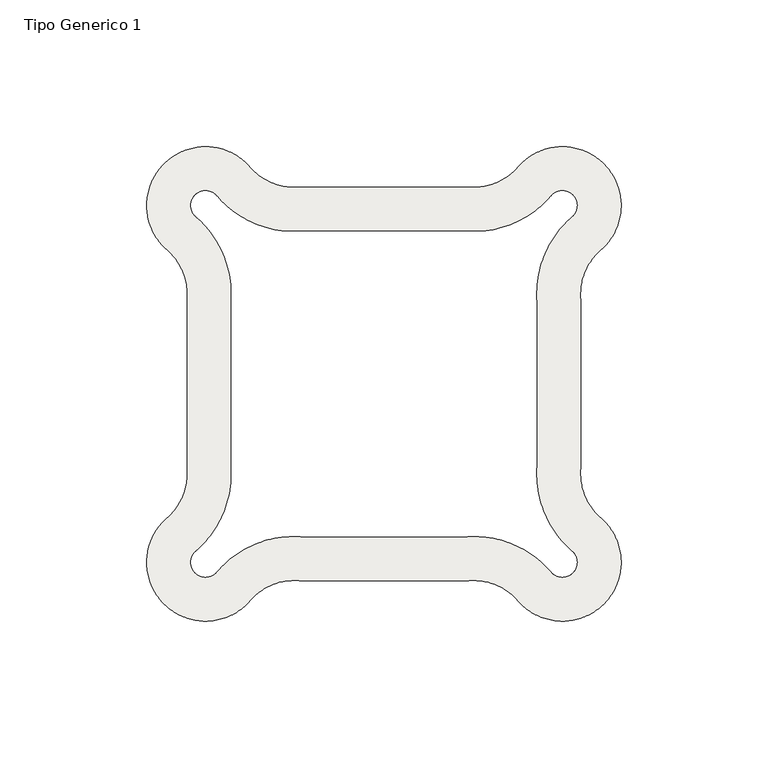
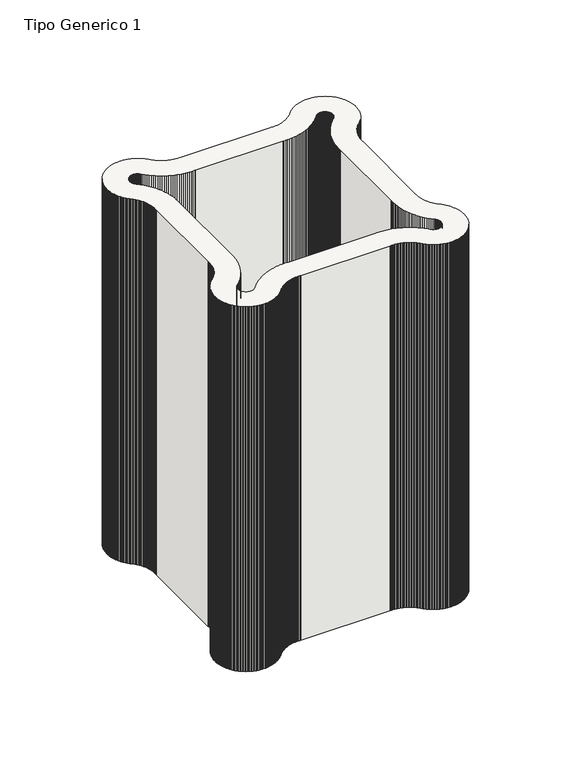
"""IFC4 building model written with IfcOpenShell, lengths in millimetres: slab geometry, Tipo Generico 1."""

from ifc_helpers import new_model, si_unit, frame, origin, place, context, project, spatial, polyline, outline, extrude, source, transform, mapped, element, save


def tipo_generico_1_efbd42e6(model_context):
    return source(origin(), model_context, "Body", "SweptSolid", [
        extrude(outline(polyline([(259295.3861912, 277995.4201759), (259295.3861912, 277937.7201759), (259295.3406193, 277937.024679), (259295.319309, 277936.3280165), (259295.3222863, 277935.6310345), (259295.3495475, 277934.9345795), (259295.4010595, 277934.2394973), (259295.4767597, 277933.5466321), (259295.5765563, 277932.8568253), (259295.700328, 277932.1709147), (259295.8479244, 277931.4897333), (259296.0191664, 277930.8141085), (259296.213846, 277930.1448607), (259296.4317268, 277929.4828027), (259296.672544, 277928.8287386), (259296.9360053, 277928.1834628), (259297.2217907, 277927.5477589), (259297.5295531, 277926.9223989), (259297.8589188, 277926.3081424), (259298.2094876, 277925.7057354), (259298.580834, 277925.1159094), (259298.9725068, 277924.5393809), (259299.3840304, 277923.9768499), (259299.814905, 277923.4289997), (259300.2646073, 277922.8964957), (259300.7325912, 277922.3799844), (259301.2182883, 277921.8800933), (259301.7211087, 277921.3974295), (259302.2404416, 277920.9325792), (259302.7560976, 277920.4711366), (259303.2554818, 277919.9921319), (259303.7379966, 277919.4961385), (259304.2030644, 277918.9837499), (259304.6501284, 277918.4555797), (259305.0786536, 277917.9122601), (259305.4881269, 277917.3544414), (259305.8780582, 277916.7827915), (259306.2479807, 277916.1979946), (259306.5974515, 277915.6007507), (259306.9260523, 277914.9917749), (259307.2333898, 277914.3717961), (259307.5190961, 277913.7415565), (259307.782829, 277913.1018105), (259308.024273, 277912.4533239), (259308.2431391, 277911.796873), (259308.4391651, 277911.1332437), (259308.6121164, 277910.4632304), (259308.7617861, 277909.7876351), (259308.8879949, 277909.1072665), (259308.9905918, 277908.4229392), (259309.069454, 277907.7354722), (259309.1244869, 277907.0456886), (259309.1556249, 277906.354414), (259309.1628305, 277905.6624761), (259309.1460952, 277904.970703), (259309.105439, 277904.2799229), (259309.0409106, 277903.5909628), (259308.9525872, 277902.9046472), (259308.8405745, 277902.2217979), (259308.7050066, 277901.5432322), (259308.5460459, 277900.8697624), (259308.3638826, 277900.2021948), (259308.1587347, 277899.5413283), (259307.9308479, 277898.8879543), (259307.6804949, 277898.2428547), (259307.4079755, 277897.6068019), (259307.1136158, 277896.9805572), (259306.7977682, 277896.3648703), (259306.4608109, 277895.7604782), (259306.1031471, 277895.1681044), (259305.7252051, 277894.5884581), (259305.3274372, 277894.0222331), (259304.9103197, 277893.4701072), (259304.4743518, 277892.9327413), (259304.0200554, 277892.4107788), (259303.5479744, 277891.9048445), (259303.0586739, 277891.4155439), (259302.5527395, 277890.9434629), (259302.030777, 277890.4891665), (259301.4934112, 277890.0531986), (259300.9412853, 277889.6360811), (259300.3750602, 277889.2383132), (259299.7954139, 277888.8603712), (259299.2030401, 277888.5027075), (259298.598648, 277888.1657501), (259297.9829611, 277887.8499026), (259297.3567164, 277887.5555429), (259296.7206636, 277887.2830234), (259296.075564, 277887.0326704), (259295.42219, 277886.8047836), (259294.7613236, 277886.5996357), (259294.0937559, 277886.4174724), (259293.4202861, 277886.2585117), (259292.7417204, 277886.1229438), (259292.0588711, 277886.0109312), (259291.3725556, 277885.9226077), (259290.6835954, 277885.8580793), (259289.9928153, 277885.8174231), (259289.3010422, 277885.8006878), (259288.6091043, 277885.8078934), (259287.9178297, 277885.8390314), (259287.2280461, 277885.8940644), (259286.5405792, 277885.9729265), (259285.8562518, 277886.0755234), (259285.1758833, 277886.2017322), (259284.5002879, 277886.3514019), (259283.8302746, 277886.5243532), (259283.1666453, 277886.7203793), (259282.5101944, 277886.9392453), (259281.8617079, 277887.1806893), (259281.2219618, 277887.4444223), (259280.5917222, 277887.7301285), (259279.9717434, 277888.037466), (259279.3627676, 277888.3660668), (259278.7655237, 277888.7155377), (259278.1807268, 277889.0854601), (259277.6090769, 277889.4753914), (259277.0512582, 277889.8848647), (259276.5079386, 277890.3133899), (259275.9797684, 277890.760454), (259275.4673799, 277891.2255217), (259274.9713864, 277891.7080365), (259274.4923817, 277892.2074207), (259274.0309392, 277892.7230764), (259273.5660888, 277893.2424096), (259273.083425, 277893.74523), (259272.5835339, 277894.2309271), (259272.0670227, 277894.698911), (259271.5345186, 277895.1486133), (259270.9866684, 277895.5794879), (259270.4241374, 277895.9910115), (259269.8476089, 277896.3826844), (259269.2577829, 277896.7540307), (259268.6553759, 277897.1045996), (259268.0411194, 277897.4339652), (259267.4157595, 277897.7417276), (259266.7800555, 277898.027513), (259266.1347797, 277898.2909743), (259265.4807156, 277898.5317916), (259264.8186577, 277898.7496723), (259264.1494099, 277898.9443519), (259263.473785, 277899.1155939), (259262.7926036, 277899.2631904), (259262.1066931, 277899.386962), (259261.4168863, 277899.4867586), (259260.724021, 277899.5624588), (259260.0289388, 277899.6139708), (259259.3324838, 277899.641232), (259258.6355018, 277899.6442093), (259257.9388393, 277899.622899), (259257.2433424, 277899.5773271), (259199.5433424, 277899.5773271), (259198.8478455, 277899.622899), (259198.151183, 277899.6442093), (259197.454201, 277899.641232), (259196.757746, 277899.6139708), (259196.0626638, 277899.5624588), (259195.3697985, 277899.4867586), (259194.6799917, 277899.386962), (259193.9940811, 277899.2631904), (259193.3128998, 277899.1155939), (259192.6372749, 277898.9443519), (259191.9680271, 277898.7496723), (259191.3059692, 277898.5317916), (259190.6519051, 277898.2909743), (259190.0066293, 277898.027513), (259189.3709253, 277897.7417276), (259188.7455654, 277897.4339652), (259188.1313089, 277897.1045996), (259187.5289019, 277896.7540307), (259186.9390759, 277896.3826844), (259186.3625473, 277895.9910115), (259185.8000164, 277895.5794879), (259185.2521662, 277895.1486133), (259184.7196621, 277894.698911), (259184.2031509, 277894.2309271), (259183.7032598, 277893.74523), (259183.220596, 277893.2424096), (259182.7557455, 277892.7230766), (259182.2943031, 277892.2074207), (259181.8152984, 277891.7080365), (259181.3193049, 277891.2255217), (259180.8069164, 277890.760454), (259180.2787462, 277890.3133899), (259179.7354265, 277889.8848647), (259179.1776079, 277889.4753914), (259178.605958, 277889.0854601), (259178.021161, 277888.7155377), (259177.4239172, 277888.3660668), (259176.8149414, 277888.037466), (259176.1949626, 277887.7301285), (259175.564723, 277887.4444223), (259174.9249769, 277887.1806893), (259174.2764904, 277886.9392453), (259173.6200395, 277886.7203793), (259172.9564102, 277886.5243532), (259172.2863969, 277886.3514019), (259171.6108015, 277886.2017322), (259170.930433, 277886.0755234), (259170.2461056, 277885.9729265), (259169.5586387, 277885.8940644), (259168.868855, 277885.8390314), (259168.1775805, 277885.8078934), (259167.4856426, 277885.8006878), (259166.7938695, 277885.8174231), (259166.1030894, 277885.8580793), (259165.4141292, 277885.9226077), (259164.7278137, 277886.0109312), (259164.0449643, 277886.1229438), (259163.3663986, 277886.2585117), (259162.6929289, 277886.4174724), (259162.0253612, 277886.5996357), (259161.3644948, 277886.8047836), (259160.7111208, 277887.0326704), (259160.0660212, 277887.2830234), (259159.4299684, 277887.5555429), (259158.8037237, 277887.8499026), (259158.1880368, 277888.1657501), (259157.5836447, 277888.5027075), (259156.9912709, 277888.8603712), (259156.4116245, 277889.2383132), (259155.8453995, 277889.6360811), (259155.2932736, 277890.0531986), (259154.7559078, 277890.4891665), (259154.2339453, 277890.9434629), (259153.7280109, 277891.4155439), (259153.2387104, 277891.9048445), (259152.7666294, 277892.4107788), (259152.312333, 277892.9327413), (259151.8763651, 277893.4701072), (259151.4592476, 277894.0222331), (259151.0614797, 277894.5884581), (259150.6835377, 277895.1681044), (259150.3258739, 277895.7604782), (259149.9889166, 277896.3648703), (259149.673069, 277896.9805572), (259149.3787093, 277897.6068019), (259149.1061899, 277898.2428547), (259148.8558369, 277898.8879543), (259148.6279501, 277899.5413283), (259148.4228022, 277900.2021948), (259148.2406389, 277900.8697624), (259148.0816781, 277901.5432322), (259147.9461103, 277902.2217979), (259147.8340976, 277902.9046472), (259147.7457742, 277903.5909628), (259147.6812458, 277904.2799229), (259147.6405896, 277904.970703), (259147.6238543, 277905.6624761), (259147.6310599, 277906.354414), (259147.6621978, 277907.0456886), (259147.7172308, 277907.7354722), (259147.796093, 277908.4229391), (259147.8986898, 277909.1072665), (259148.0248987, 277909.7876351), (259148.1745683, 277910.4632304), (259148.3475197, 277911.1332437), (259148.5435457, 277911.796873), (259148.7624117, 277912.4533239), (259149.0038558, 277913.1018105), (259149.2675887, 277913.7415565), (259149.553295, 277914.3717961), (259149.8606325, 277914.9917749), (259150.1892333, 277915.6007507), (259150.5387041, 277916.1979946), (259150.9086266, 277916.7827915), (259151.2985578, 277917.3544414), (259151.7080312, 277917.9122601), (259152.1365563, 277918.4555797), (259152.5836204, 277918.9837499), (259153.0486882, 277919.4961385), (259153.531203, 277919.9921319), (259154.0305872, 277920.4711366), (259154.5462431, 277920.9325792), (259155.0655761, 277921.3974295), (259155.5683965, 277921.8800933), (259156.0540936, 277922.3799844), (259156.5220775, 277922.8964957), (259156.9717798, 277923.4289997), (259157.4026544, 277923.9768499), (259157.814178, 277924.5393809), (259158.2058508, 277925.1159094), (259158.5771972, 277925.7057354), (259158.927766, 277926.3081424), (259159.2571317, 277926.9223989), (259159.5648941, 277927.5477589), (259159.8506795, 277928.1834628), (259160.1141408, 277928.8287386), (259160.354958, 277929.4828027), (259160.5728388, 277930.1448607), (259160.7675183, 277930.8141085), (259160.9387604, 277931.4897333), (259161.0863568, 277932.1709147), (259161.2101285, 277932.8568253), (259161.3099251, 277933.5466321), (259161.3856253, 277934.2394973), (259161.4371373, 277934.9345795), (259161.4643985, 277935.6310345), (259161.4673757, 277936.3280165), (259161.4460655, 277937.024679), (259161.4004935, 277937.7201759), (259161.4004935, 277995.4201759), (259161.4460655, 277996.1156728), (259161.4673757, 277996.8123353), (259161.4643985, 277997.5093173), (259161.4371373, 277998.2057724), (259161.3856253, 277998.9008546), (259161.3099251, 277999.5937198), (259161.2101285, 278000.2835266), (259161.0863568, 278000.9694372), (259160.9387604, 278001.6506185), (259160.7675183, 278002.3262434), (259160.5728388, 278002.9954912), (259160.354958, 278003.6575492), (259160.1141408, 278004.3116132), (259159.8506795, 278004.9568891), (259159.5648941, 278005.592593), (259159.2571317, 278006.2179529), (259158.927766, 278006.8322094), (259158.5771972, 278007.4346165), (259158.2058508, 278008.0244424), (259157.814178, 278008.600971), (259157.4026544, 278009.1635019), (259156.9717798, 278009.7113521), (259156.5220775, 278010.2438562), (259156.0540936, 278010.7603674), (259155.5683965, 278011.2602585), (259155.0655761, 278011.7429224), (259154.546243, 278012.2077727), (259154.0305872, 278012.6692153), (259153.531203, 278013.1482199), (259153.0486882, 278013.6442134), (259152.5836204, 278014.1566019), (259152.1365563, 278014.6847721), (259151.7080312, 278015.2280918), (259151.2985578, 278015.7859104), (259150.9086266, 278016.3575604), (259150.5387041, 278016.9423573), (259150.1892333, 278017.5396011), (259149.8606325, 278018.1485769), (259149.553295, 278018.7685557), (259149.2675887, 278019.3987954), (259149.0038558, 278020.0385414), (259148.7624117, 278020.687028), (259148.5435457, 278021.3434788), (259148.3475197, 278022.0071081), (259148.1745683, 278022.6771215), (259148.0248987, 278023.3527168), (259147.8986898, 278024.0330854), (259147.796093, 278024.7174127), (259147.7172308, 278025.4048797), (259147.6621978, 278026.0946633), (259147.6310599, 278026.7859378), (259147.6238543, 278027.4778758), (259147.6405896, 278028.1696488), (259147.6812458, 278028.8604289), (259147.7457742, 278029.5493891), (259147.8340976, 278030.2357046), (259147.9461103, 278030.918554), (259148.0816781, 278031.5971197), (259148.2406389, 278032.2705895), (259148.4228022, 278032.9381571), (259148.6279501, 278033.5990235), (259148.8558369, 278034.2523976), (259149.1061899, 278034.8974971), (259149.3787093, 278035.5335499), (259149.673069, 278036.1597946), (259149.9889166, 278036.7754816), (259150.3258739, 278037.3798737), (259150.6835377, 278037.9722474), (259151.0614797, 278038.5518938), (259151.4592476, 278039.1181188), (259151.8763651, 278039.6702447), (259152.312333, 278040.2076105), (259152.7666294, 278040.7295731), (259153.2387104, 278041.2355074), (259153.7280109, 278041.7248079), (259154.2339453, 278042.196889), (259154.7559078, 278042.6511853), (259155.2932736, 278043.0871532), (259155.8453995, 278043.5042708), (259156.4116245, 278043.9020386), (259156.9912709, 278044.2799806), (259157.5836447, 278044.6376444), (259158.1880368, 278044.9746017), (259158.8037237, 278045.2904493), (259159.4299684, 278045.584809), (259160.0660212, 278045.8573284), (259160.7111208, 278046.1076814), (259161.3644948, 278046.3355683), (259162.0253612, 278046.5407161), (259162.6929289, 278046.7228794), (259163.3663986, 278046.8818402), (259164.0449643, 278047.017408), (259164.7278137, 278047.1294207), (259165.4141292, 278047.2177441), (259166.1030894, 278047.2822726), (259166.7938695, 278047.3229288), (259167.4856426, 278047.3396641), (259168.1775805, 278047.3324584), (259168.868855, 278047.3013205), (259169.5586387, 278047.2462875), (259170.2461056, 278047.1674254), (259170.930433, 278047.0648285), (259171.6108015, 278046.9386197), (259172.2863969, 278046.78895), (259172.9564102, 278046.6159986), (259173.6200395, 278046.4199726), (259174.2764904, 278046.2011066), (259174.9249769, 278045.9596626), (259175.564723, 278045.6959296), (259176.1949626, 278045.4102233), (259176.8149414, 278045.1028859), (259177.4239172, 278044.774285), (259178.021161, 278044.4248142), (259178.605958, 278044.0548917), (259179.1776079, 278043.6649605), (259179.7354265, 278043.2554872), (259180.2787462, 278042.826962), (259180.8069164, 278042.3798979), (259181.3193049, 278041.9148301), (259181.8152984, 278041.4323153), (259182.2943031, 278040.9329311), (259182.7557456, 278040.4172752), (259183.220596, 278039.8979423), (259183.7032598, 278039.3951218), (259184.2031509, 278038.9094247), (259184.7196621, 278038.4414409), (259185.2521662, 278037.9917385), (259185.8000164, 278037.5608639), (259186.3625473, 278037.1493403), (259186.9390759, 278036.7576675), (259187.5289019, 278036.3863212), (259188.1313089, 278036.0357523), (259188.7455654, 278035.7063867), (259189.3709253, 278035.3986243), (259190.0066293, 278035.1128389), (259190.6519051, 278034.8493776), (259191.3059692, 278034.6085603), (259191.9680271, 278034.3906796), (259192.6372749, 278034.196), (259193.3128998, 278034.024758), (259193.9940811, 278033.8771615), (259194.6799917, 278033.7533898), (259195.3697985, 278033.6535933), (259196.0626638, 278033.577893), (259196.757746, 278033.526381), (259197.454201, 278033.4991198), (259198.151183, 278033.4961426), (259198.8478455, 278033.5174529), (259199.5433424, 278033.5630248), (259257.2433424, 278033.5630248), (259257.9388393, 278033.5174529), (259258.6355018, 278033.4961426), (259259.3324838, 278033.4991198), (259260.0289388, 278033.526381), (259260.724021, 278033.577893), (259261.4168863, 278033.6535933), (259262.1066931, 278033.7533898), (259262.7926036, 278033.8771615), (259263.473785, 278034.024758), (259264.1494099, 278034.196), (259264.8186577, 278034.3906796), (259265.4807156, 278034.6085603), (259266.1347797, 278034.8493775), (259266.7800555, 278035.1128389), (259267.4157595, 278035.3986243), (259268.0411194, 278035.7063867), (259268.6553759, 278036.0357523), (259269.2577829, 278036.3863212), (259269.8476089, 278036.7576675), (259270.4241374, 278037.1493403), (259270.9866684, 278037.5608639), (259271.5345186, 278037.9917385), (259272.0670227, 278038.4414409), (259272.5835339, 278038.9094247), (259273.083425, 278039.3951218), (259273.5660888, 278039.8979423), (259274.0309393, 278040.4172754), (259274.4923817, 278040.9329311), (259274.9713864, 278041.4323153), (259275.4673799, 278041.9148301), (259275.9797684, 278042.3798979), (259276.5079386, 278042.826962), (259277.0512582, 278043.2554872), (259277.6090769, 278043.6649605), (259278.1807268, 278044.0548917), (259278.7655237, 278044.4248142), (259279.3627676, 278044.774285), (259279.9717434, 278045.1028859), (259280.5917222, 278045.4102233), (259281.2219618, 278045.6959296), (259281.8617079, 278045.9596626), (259282.5101944, 278046.2011066), (259283.1666453, 278046.4199726), (259283.8302746, 278046.6159986), (259284.5002879, 278046.78895), (259285.1758833, 278046.9386197), (259285.8562518, 278047.0648285), (259286.5405792, 278047.1674254), (259287.2280461, 278047.2462875), (259287.9178297, 278047.3013205), (259288.6091043, 278047.3324584), (259289.3010422, 278047.3396641), (259289.9928153, 278047.3229288), (259290.6835954, 278047.2822726), (259291.3725556, 278047.2177441), (259292.0588711, 278047.1294207), (259292.7417204, 278047.017408), (259293.4202861, 278046.8818402), (259294.0937559, 278046.7228794), (259294.7613236, 278046.5407161), (259295.42219, 278046.3355683), (259296.075564, 278046.1076814), (259296.7206636, 278045.8573284), (259297.3567164, 278045.584809), (259297.9829611, 278045.2904493), (259298.598648, 278044.9746017), (259299.2030401, 278044.6376444), (259299.7954139, 278044.2799806), (259300.3750602, 278043.9020386), (259300.9412853, 278043.5042708), (259301.4934112, 278043.0871532), (259302.030777, 278042.6511853), (259302.5527395, 278042.196889), (259303.0586739, 278041.724808), (259303.5479744, 278041.2355074), (259304.0200554, 278040.7295731), (259304.4743518, 278040.2076105), (259304.9103197, 278039.6702447), (259305.3274372, 278039.1181188), (259305.7252051, 278038.5518938), (259306.1031471, 278037.9722474), (259306.4608109, 278037.3798737), (259306.7977682, 278036.7754816), (259307.1136158, 278036.1597946), (259307.4079755, 278035.5335499), (259307.6804949, 278034.8974971), (259307.9308479, 278034.2523976), (259308.1587347, 278033.5990235), (259308.3638826, 278032.9381571), (259308.5460459, 278032.2705895), (259308.7050066, 278031.5971197), (259308.8405745, 278030.918554), (259308.9525872, 278030.2357046), (259309.0409106, 278029.5493891), (259309.105439, 278028.8604289), (259309.1460952, 278028.1696488), (259309.1628305, 278027.4778758), (259309.1556249, 278026.7859378), (259309.1244869, 278026.0946633), (259309.069454, 278025.4048797), (259308.9905918, 278024.7174127), (259308.8879949, 278024.0330854), (259308.7617861, 278023.3527168), (259308.6121164, 278022.6771215), (259308.4391651, 278022.0071081), (259308.2431391, 278021.3434788), (259308.024273, 278020.687028), (259307.782829, 278020.0385414), (259307.5190961, 278019.3987954), (259307.2333898, 278018.7685557), (259306.9260523, 278018.1485769), (259306.5974515, 278017.5396011), (259306.2479807, 278016.9423573), (259305.8780582, 278016.3575604), (259305.4881269, 278015.7859104), (259305.0786536, 278015.2280918), (259304.6501284, 278014.6847721), (259304.2030644, 278014.1566019), (259303.7379966, 278013.6442134), (259303.2554818, 278013.1482199), (259302.7560976, 278012.6692153), (259302.2404417, 278012.2077727), (259301.7211087, 278011.7429224), (259301.2182883, 278011.2602585), (259300.7325912, 278010.7603674), (259300.2646073, 278010.2438562), (259299.814905, 278009.7113521), (259299.3840304, 278009.1635019), (259298.9725068, 278008.600971), (259298.580834, 278008.0244424), (259298.2094876, 278007.4346165), (259297.8589188, 278006.8322094), (259297.5295531, 278006.2179529), (259297.2217907, 278005.592593), (259296.9360053, 278004.9568891), (259296.672544, 278004.3116132), (259296.4317268, 278003.6575492), (259296.213846, 278002.9954912), (259296.0191664, 278002.3262434), (259295.8479244, 278001.6506185), (259295.700328, 278000.9694372), (259295.5765563, 278000.2835266), (259295.4767597, 277999.5937198), (259295.4010595, 277998.9008546), (259295.3495475, 277998.2057724), (259295.3222863, 277997.5093173), (259295.319309, 277996.8123353), (259295.3406193, 277996.1156728), (259295.3861912, 277995.4201759)]), holes=[polyline([(259176.4004935, 277938.2110817), (259176.4310601, 277937.7445891), (259176.4683555, 277936.5253504), (259176.463145, 277935.3055524), (259176.4154348, 277934.0866768), (259176.325283, 277932.8702039), (259176.1927989, 277931.6576108), (259176.0181436, 277930.4503703), (259175.8015291, 277929.2499488), (259175.5432184, 277928.0578038), (259175.2435254, 277926.8753833), (259174.9028139, 277925.7041234), (259174.5214978, 277924.5454466), (259174.1000402, 277923.40076), (259173.6389529, 277922.2714538), (259173.1387959, 277921.1588996), (259172.6001767, 277920.0644484), (259172.0237493, 277918.9894296), (259171.4102138, 277917.9351486), (259170.7603155, 277916.9028861), (259170.0748435, 277915.8938955), (259169.3546303, 277914.9094022), (259168.6005507, 277913.950602), (259167.8135204, 277913.0186593), (259166.9944953, 277912.1147057), (259166.14447, 277911.2398394), (259165.2644768, 277910.3951225), (259164.5496642, 277909.7553001), (259164.2267078, 277909.4662977), (259164.1019176, 277909.3466), (259163.9813431, 277909.2226574), (259163.8651283, 277909.0946178), (259163.7534125, 277908.9626345), (259163.6463293, 277908.8268655), (259163.5440069, 277908.6874735), (259163.4465679, 277908.5446252), (259163.3541288, 277908.3984916), (259163.2668003, 277908.2492477), (259163.184687, 277908.0970721), (259163.1078871, 277907.942147), (259163.0364926, 277907.7846578), (259162.970589, 277907.6247932), (259162.9102551, 277907.4627443), (259162.8555631, 277907.2987053), (259162.8065786, 277907.1328724), (259162.7633602, 277906.9654443), (259162.7259596, 277906.7966213), (259162.6944215, 277906.6266055), (259162.6687838, 277906.4556005), (259162.6490772, 277906.2838109), (259162.6353251, 277906.1114425), (259162.6275441, 277905.9387014), (259162.6257435, 277905.7657946), (259162.6299254, 277905.5929291), (259162.6400849, 277905.4203115), (259162.6562098, 277905.2481488), (259162.6782807, 277905.0766469), (259162.7062713, 277904.9060113), (259162.7401481, 277904.7364461), (259162.7798704, 277904.5681542), (259162.8253908, 277904.4013371), (259162.8766547, 277904.2361948), (259162.9336008, 277904.0729247), (259162.996161, 277903.9117222), (259163.0642603, 277903.7527803), (259163.1378172, 277903.5962894), (259163.2167436, 277903.4424368), (259163.3009451, 277903.2914067), (259163.3903209, 277903.1433797), (259163.484764, 277902.9985332), (259163.5841613, 277902.8570405), (259163.6883939, 277902.7190709), (259163.7973369, 277902.5847898), (259163.91086, 277902.4543578), (259164.0288272, 277902.327931), (259164.1510975, 277902.2056608), (259164.2775243, 277902.0876935), (259164.4079563, 277901.9741704), (259164.5422374, 277901.8652274), (259164.6802069, 277901.7609948), (259164.8216996, 277901.6615975), (259164.9665462, 277901.5671544), (259165.1145731, 277901.4777786), (259165.2656033, 277901.3935772), (259165.4194559, 277901.3146507), (259165.5759468, 277901.2410938), (259165.7348886, 277901.1729945), (259165.8960911, 277901.1104344), (259166.0593613, 277901.0534883), (259166.2245036, 277901.0022244), (259166.3913206, 277900.956704), (259166.5596125, 277900.9169816), (259166.7291777, 277900.8831049), (259166.8998134, 277900.8551143), (259167.0713153, 277900.8330433), (259167.243478, 277900.8169185), (259167.4160955, 277900.806759), (259167.5889611, 277900.802577), (259167.7618678, 277900.8043776), (259167.9346089, 277900.8121586), (259168.1069774, 277900.8259107), (259168.278767, 277900.8456174), (259168.449772, 277900.8712551), (259168.6197878, 277900.9027931), (259168.7886107, 277900.9401937), (259168.9560388, 277900.9834122), (259169.1218717, 277901.0323967), (259169.2859107, 277901.0870886), (259169.4479596, 277901.1474225), (259169.6078243, 277901.2133262), (259169.7653134, 277901.2847206), (259169.9202386, 277901.3615205), (259170.0724142, 277901.4436338), (259170.221658, 277901.5309623), (259170.3677916, 277901.6234014), (259170.5106399, 277901.7208404), (259170.650032, 277901.8231628), (259170.7858009, 277901.930246), (259170.9177842, 277902.0419619), (259171.0458238, 277902.1581766), (259171.1697665, 277902.2787511), (259171.2894636, 277902.4035407), (259171.5784663, 277902.7264974), (259172.2182896, 277903.441311), (259173.0630059, 277904.3213036), (259173.9378722, 277905.1713288), (259174.8418257, 277905.9903539), (259175.7737684, 277906.7773842), (259176.7325687, 277907.5314638), (259177.7170619, 277908.251677), (259178.7260525, 277908.937149), (259179.7583151, 277909.5870474), (259180.812596, 277910.2005828), (259181.8876149, 277910.7770102), (259182.982066, 277911.3156295), (259184.0946203, 277911.8157865), (259185.2239265, 277912.2768738), (259186.3686131, 277912.6983314), (259187.5272899, 277913.0796475), (259188.6985498, 277913.4203589), (259189.8809703, 277913.720052), (259191.0731152, 277913.9783626), (259192.2735368, 277914.1949771), (259193.4807773, 277914.3696325), (259194.6933704, 277914.5021165), (259195.9098433, 277914.5922684), (259197.1287189, 277914.6399785), (259198.3485168, 277914.6451891), (259199.5677556, 277914.6078937), (259200.0342481, 277914.5773271), (259256.7524367, 277914.5773271), (259257.2189292, 277914.6078937), (259258.4381679, 277914.6451891), (259259.6579659, 277914.6399785), (259260.8768415, 277914.5922684), (259262.0933144, 277914.5021165), (259263.3059075, 277914.3696325), (259264.513148, 277914.1949771), (259265.7135695, 277913.9783626), (259266.9057145, 277913.720052), (259268.088135, 277913.4203589), (259269.2593949, 277913.0796475), (259270.4180717, 277912.6983314), (259271.5627583, 277912.2768738), (259272.6920645, 277911.8157865), (259273.8046188, 277911.3156295), (259274.8990699, 277910.7770102), (259275.9740888, 277910.2005828), (259277.0283697, 277909.5870474), (259278.0606322, 277908.937149), (259279.0696229, 277908.251677), (259280.0541161, 277907.5314638), (259281.0129163, 277906.7773842), (259281.9448591, 277905.9903539), (259282.8488126, 277905.1713288), (259283.7236789, 277904.3213036), (259284.5683964, 277903.4413098), (259285.2082183, 277902.7264978), (259285.4972201, 277902.4035419), (259285.6169183, 277902.2787511), (259285.7408609, 277902.1581766), (259285.8689006, 277902.0419619), (259286.0008838, 277901.930246), (259286.1366528, 277901.8231628), (259286.2760449, 277901.7208404), (259286.4188931, 277901.6234014), (259286.5650267, 277901.5309623), (259286.7142706, 277901.4436338), (259286.8664462, 277901.3615205), (259287.0213713, 277901.2847206), (259287.1788605, 277901.2133262), (259287.3387252, 277901.1474225), (259287.5007741, 277901.0870886), (259287.6648131, 277901.0323967), (259287.8306459, 277900.9834122), (259287.998074, 277900.9401937), (259288.166897, 277900.9027931), (259288.3369128, 277900.8712551), (259288.5079178, 277900.8456174), (259288.6797074, 277900.8259107), (259288.8520759, 277900.8121586), (259289.0248169, 277900.8043776), (259289.1977237, 277900.802577), (259289.3705893, 277900.806759), (259289.5432068, 277900.8169185), (259289.7153695, 277900.8330433), (259289.8868714, 277900.8551143), (259290.0575071, 277900.8831049), (259290.2270723, 277900.9169816), (259290.3953642, 277900.956704), (259290.5621812, 277901.0022244), (259290.7273235, 277901.0534883), (259290.8905936, 277901.1104344), (259291.0517962, 277901.1729945), (259291.210738, 277901.2410938), (259291.3672289, 277901.3146507), (259291.5210815, 277901.3935772), (259291.6721117, 277901.4777786), (259291.8201386, 277901.5671544), (259291.9649851, 277901.6615975), (259292.1064779, 277901.7609948), (259292.2444474, 277901.8652274), (259292.3787285, 277901.9741704), (259292.5091605, 277902.0876935), (259292.6355873, 277902.2056608), (259292.7578576, 277902.327931), (259292.8758248, 277902.4543578), (259292.9893479, 277902.5847898), (259293.0982909, 277902.7190709), (259293.2025235, 277902.8570405), (259293.3019208, 277902.9985332), (259293.3963639, 277903.1433797), (259293.4857397, 277903.2914067), (259293.5699412, 277903.4424368), (259293.6488676, 277903.5962894), (259293.7224245, 277903.7527803), (259293.7905238, 277903.9117222), (259293.8530839, 277904.0729247), (259293.9100301, 277904.2361948), (259293.961294, 277904.4013371), (259294.0068144, 277904.5681542), (259294.0465367, 277904.7364461), (259294.0804134, 277904.9060113), (259294.108404, 277905.0766469), (259294.130475, 277905.2481488), (259294.1465999, 277905.4203115), (259294.1567593, 277905.5929291), (259294.1609413, 277905.7657946), (259294.1591407, 277905.9387014), (259294.1513597, 277906.1114425), (259294.1376076, 277906.2838109), (259294.1179009, 277906.4556005), (259294.0922632, 277906.6266055), (259294.0607252, 277906.7966213), (259294.0233246, 277906.9654443), (259293.9801062, 277907.1328724), (259293.9311216, 277907.2987053), (259293.8764297, 277907.4627443), (259293.8160958, 277907.6247932), (259293.7501922, 277907.7846578), (259293.6787977, 277907.942147), (259293.6019978, 277908.0970721), (259293.5198845, 277908.2492477), (259293.432556, 277908.3984916), (259293.3401169, 277908.5446252), (259293.2426779, 277908.6874735), (259293.1403555, 277908.8268655), (259293.0332723, 277908.9626345), (259292.9215565, 277909.0946178), (259292.8053417, 277909.2226574), (259292.6847672, 277909.3466), (259292.559978, 277909.4662967), (259292.2370202, 277909.7553002), (259291.5222069, 277910.3951235), (259290.6422148, 277911.2398394), (259289.7921895, 277912.1147057), (259288.9731644, 277913.0186593), (259288.1861341, 277913.950602), (259287.4320545, 277914.9094022), (259286.7118413, 277915.8938955), (259286.0263693, 277916.9028861), (259285.376471, 277917.9351486), (259284.7629355, 277918.9894296), (259284.1865081, 277920.0644484), (259283.6478888, 277921.1588996), (259283.1477319, 277922.2714538), (259282.6866446, 277923.40076), (259282.2651869, 277924.5454466), (259281.8838709, 277925.7041234), (259281.5431594, 277926.8753833), (259281.2434664, 277928.0578038), (259280.9851557, 277929.2499488), (259280.7685412, 277930.4503703), (259280.5938859, 277931.6576108), (259280.4614018, 277932.8702039), (259280.37125, 277934.0866768), (259280.3235398, 277935.3055524), (259280.3183292, 277936.5253504), (259280.3556247, 277937.7445891), (259280.3861912, 277938.2110817), (259280.3861912, 277994.9292702), (259280.3556247, 277995.3957628), (259280.3183292, 277996.6150015), (259280.3235398, 277997.8347994), (259280.37125, 277999.053675), (259280.4614018, 278000.2701479), (259280.5938859, 278001.4827411), (259280.7685412, 278002.6899815), (259280.9851557, 278003.8904031), (259281.2434664, 278005.0825481), (259281.5431594, 278006.2649686), (259281.8838709, 278007.4362284), (259282.2651869, 278008.5949052), (259282.6866446, 278009.7395918), (259283.1477319, 278010.8688981), (259283.6478888, 278011.9814523), (259284.1865081, 278013.0759034), (259284.7629355, 278014.1509223), (259285.376471, 278015.2052032), (259286.0263693, 278016.2374658), (259286.7118413, 278017.2464564), (259287.4320545, 278018.2309497), (259288.1861341, 278019.1897499), (259288.9731644, 278020.1216926), (259289.7921895, 278021.0256461), (259290.6422147, 278021.9005124), (259291.5222077, 278022.7452291), (259292.2370207, 278023.3850518), (259292.5599772, 278023.6740544), (259292.6847672, 278023.7937518), (259292.8053417, 278023.9176945), (259292.9215565, 278024.0457341), (259293.0332723, 278024.1777174), (259293.1403555, 278024.3134863), (259293.2426779, 278024.4528784), (259293.3401169, 278024.5957267), (259293.432556, 278024.7418603), (259293.5198845, 278024.8911041), (259293.6019978, 278025.0432797), (259293.6787977, 278025.1982049), (259293.7501922, 278025.355694), (259293.8160958, 278025.5155587), (259293.8764297, 278025.6776076), (259293.9311216, 278025.8416466), (259293.9801062, 278026.0074795), (259294.0233246, 278026.1749076), (259294.0607252, 278026.3437305), (259294.0922632, 278026.5137463), (259294.1179009, 278026.6847513), (259294.1376076, 278026.8565409), (259294.1513597, 278027.0289094), (259294.1591407, 278027.2016505), (259294.1609413, 278027.3745573), (259294.1567593, 278027.5474228), (259294.1465999, 278027.7200403), (259294.130475, 278027.8922031), (259294.108404, 278028.0637049), (259294.0804134, 278028.2343406), (259294.0465367, 278028.4039058), (259294.0068144, 278028.5721977), (259293.961294, 278028.7390147), (259293.9100301, 278028.9041571), (259293.8530839, 278029.0674272), (259293.7905238, 278029.2286297), (259293.7224245, 278029.3875716), (259293.6488676, 278029.5440624), (259293.5699412, 278029.6979151), (259293.4857397, 278029.8489452), (259293.3963639, 278029.9969722), (259293.3019208, 278030.1418187), (259293.2025235, 278030.2833114), (259293.0982909, 278030.4212809), (259292.9893479, 278030.555562), (259292.8758248, 278030.685994), (259292.7578576, 278030.8124208), (259292.6355873, 278030.9346911), (259292.5091605, 278031.0526584), (259292.3787285, 278031.1661814), (259292.2444474, 278031.2751244), (259292.1064779, 278031.379357), (259291.9649851, 278031.4787543), (259291.8201386, 278031.5731974), (259291.6721117, 278031.6625732), (259291.5210815, 278031.7467747), (259291.3672289, 278031.8257011), (259291.210738, 278031.899258), (259291.0517962, 278031.9673573), (259290.8905936, 278032.0299175), (259290.7273235, 278032.0868636), (259290.5621812, 278032.1381275), (259290.3953642, 278032.1836479), (259290.2270723, 278032.2233703), (259290.0575071, 278032.257247), (259289.8868714, 278032.2852376), (259289.7153695, 278032.3073085), (259289.5432068, 278032.3234334), (259289.3705893, 278032.3335929), (259289.1977237, 278032.3377748), (259289.0248169, 278032.3359742), (259288.8520759, 278032.3281932), (259288.6797074, 278032.3144412), (259288.5079178, 278032.2947345), (259288.3369128, 278032.2690968), (259288.166897, 278032.2375587), (259287.998074, 278032.2001581), (259287.8306459, 278032.1569397), (259287.6648131, 278032.1079552), (259287.5007741, 278032.0532633), (259287.3387252, 278031.9929293), (259287.1788605, 278031.9270257), (259287.0213713, 278031.8556312), (259286.8664462, 278031.7788313), (259286.7142706, 278031.696718), (259286.5650267, 278031.6093896), (259286.4188931, 278031.5169505), (259286.2760448, 278031.4195114), (259286.1366528, 278031.3171891), (259286.0008838, 278031.2101058), (259285.8689006, 278031.09839), (259285.7408609, 278030.9821753), (259285.6169183, 278030.8616008), (259285.4972211, 278030.7368109), (259285.2082184, 278030.4138543), (259284.5683954, 278029.6990411), (259283.7236789, 278028.8190483), (259282.8488126, 278027.9690231), (259281.9448591, 278027.1499979), (259281.0129163, 278026.3629677), (259280.0541161, 278025.608888), (259279.0696229, 278024.8886749), (259278.0606323, 278024.2032029), (259277.0283697, 278023.5533045), (259275.9740888, 278022.939769), (259274.8990699, 278022.3633416), (259273.8046188, 278021.8247224), (259272.6920645, 278021.3245654), (259271.5627583, 278020.8634781), (259270.4180717, 278020.4420205), (259269.2593949, 278020.0607044), (259268.088135, 278019.719993), (259266.9057145, 278019.4202999), (259265.7135695, 278019.1619893), (259264.513148, 278018.9453748), (259263.3059075, 278018.7707194), (259262.0933144, 278018.6382354), (259260.8768415, 278018.5480835), (259259.6579659, 278018.5003733), (259258.4381679, 278018.4951628), (259257.2189292, 278018.5324582), (259256.7524367, 278018.5630248), (259200.0342481, 278018.5630248), (259199.5677556, 278018.5324582), (259198.3485168, 278018.4951628), (259197.1287189, 278018.5003733), (259195.9098433, 278018.5480835), (259194.6933704, 278018.6382354), (259193.4807773, 278018.7707194), (259192.2735368, 278018.9453748), (259191.0731152, 278019.1619893), (259189.8809703, 278019.4202999), (259188.6985498, 278019.719993), (259187.5272899, 278020.0607044), (259186.3686131, 278020.4420205), (259185.2239265, 278020.8634781), (259184.0946203, 278021.3245654), (259182.982066, 278021.8247224), (259181.8876149, 278022.3633416), (259180.812596, 278022.939769), (259179.7583151, 278023.5533045), (259178.7260525, 278024.2032029), (259177.7170619, 278024.8886749), (259176.7325687, 278025.608888), (259175.7737685, 278026.3629677), (259174.8418257, 278027.1499979), (259173.9378722, 278027.9690231), (259173.0630059, 278028.8190483), (259172.2182892, 278029.6990412), (259171.5784668, 278030.4138544), (259171.2894639, 278030.7368108), (259171.1697665, 278030.8616008), (259171.0458238, 278030.9821753), (259170.9177842, 278031.09839), (259170.785801, 278031.2101058), (259170.650032, 278031.3171891), (259170.5106399, 278031.4195114), (259170.3677917, 278031.5169505), (259170.221658, 278031.6093896), (259170.0724142, 278031.696718), (259169.9202386, 278031.7788313), (259169.7653134, 278031.8556312), (259169.6078243, 278031.9270257), (259169.4479596, 278031.9929293), (259169.2859107, 278032.0532633), (259169.1218717, 278032.1079552), (259168.9560388, 278032.1569397), (259168.7886107, 278032.2001581), (259168.6197878, 278032.2375587), (259168.449772, 278032.2690968), (259168.278767, 278032.2947345), (259168.1069774, 278032.3144412), (259167.9346089, 278032.3281932), (259167.7618678, 278032.3359742), (259167.5889611, 278032.3377748), (259167.4160955, 278032.3335929), (259167.243478, 278032.3234334), (259167.0713153, 278032.3073085), (259166.8998134, 278032.2852376), (259166.7291777, 278032.257247), (259166.5596125, 278032.2233703), (259166.3913206, 278032.1836479), (259166.2245036, 278032.1381275), (259166.0593613, 278032.0868636), (259165.8960911, 278032.0299175), (259165.7348886, 278031.9673573), (259165.5759468, 278031.899258), (259165.4194559, 278031.8257011), (259165.2656033, 278031.7467747), (259165.1145731, 278031.6625732), (259164.9665462, 278031.5731974), (259164.8216997, 278031.4787543), (259164.6802069, 278031.379357), (259164.5422374, 278031.2751244), (259164.4079563, 278031.1661814), (259164.2775243, 278031.0526584), (259164.1510975, 278030.9346911), (259164.0288272, 278030.8124208), (259163.91086, 278030.685994), (259163.7973369, 278030.555562), (259163.6883939, 278030.4212809), (259163.5841613, 278030.2833114), (259163.484764, 278030.1418187), (259163.3903209, 278029.9969722), (259163.3009451, 278029.8489452), (259163.2167436, 278029.6979151), (259163.1378172, 278029.5440624), (259163.0642603, 278029.3875716), (259162.996161, 278029.2286297), (259162.9336008, 278029.0674272), (259162.8766547, 278028.9041571), (259162.8253908, 278028.7390147), (259162.7798704, 278028.5721977), (259162.7401481, 278028.4039058), (259162.7062713, 278028.2343406), (259162.6782807, 278028.0637049), (259162.6562098, 278027.8922031), (259162.6400849, 278027.7200403), (259162.6299254, 278027.5474228), (259162.6257435, 278027.3745573), (259162.6275441, 278027.2016505), (259162.6353251, 278027.0289094), (259162.6490772, 278026.8565409), (259162.6687838, 278026.6847513), (259162.6944215, 278026.5137464), (259162.7259596, 278026.3437305), (259162.7633602, 278026.1749076), (259162.8065786, 278026.0074795), (259162.8555631, 278025.8416466), (259162.9102551, 278025.6776076), (259162.970589, 278025.5155587), (259163.0364926, 278025.355694), (259163.1078871, 278025.1982049), (259163.184687, 278025.0432797), (259163.2668003, 278024.8911041), (259163.3541288, 278024.7418603), (259163.4465679, 278024.5957267), (259163.5440069, 278024.4528784), (259163.6463293, 278024.3134863), (259163.7534125, 278024.1777174), (259163.8651283, 278024.0457341), (259163.9813431, 278023.9176945), (259164.1019176, 278023.7937518), (259164.2267083, 278023.6740537), (259164.5496641, 278023.3850514), (259165.2644763, 278022.7452298), (259166.1444701, 278021.9005124), (259166.9944953, 278021.0256461), (259167.8135204, 278020.1216926), (259168.6005507, 278019.1897499), (259169.3546303, 278018.2309496), (259170.0748435, 278017.2464564), (259170.7603155, 278016.2374658), (259171.4102138, 278015.2052032), (259172.0237493, 278014.1509223), (259172.6001767, 278013.0759034), (259173.1387959, 278011.9814523), (259173.6389529, 278010.8688981), (259174.1000402, 278009.7395918), (259174.5214978, 278008.5949052), (259174.9028139, 278007.4362284), (259175.2435254, 278006.2649686), (259175.5432184, 278005.0825481), (259175.8015291, 278003.8904031), (259176.0181436, 278002.6899815), (259176.1927989, 278001.4827411), (259176.325283, 278000.2701479), (259176.4154348, 277999.053675), (259176.463145, 277997.8347994), (259176.4683555, 277996.6150015), (259176.4310601, 277995.3957628), (259176.4004935, 277994.9292702), (259176.4004935, 277938.2110817)])]), frame((0.0, 0.0, 1460.0), z_axis=(0.0, 0.0, 1.0), x_axis=(1.0, 0.0, 0.0)), (0.0, 0.0, 1.0), 250.0),
    ])


if __name__ == "__main__":
    model = new_model("IFC4")
    model_context = context("Model", 3, world=origin())
    ifc_project = project(units=[si_unit("LENGTHUNIT", "METRE", prefix="MILLI")], contexts=[model_context])
    site = spatial("IfcSite", under=ifc_project)
    building = spatial("IfcBuilding", under=site)
    placement = place(None, origin())
    tipo_generico_1_shape = tipo_generico_1_efbd42e6(model_context)
    element("IfcSlab", 1, ObjectType="Tipo Generico 1", at=placement, inside=building, context=model_context, shape_type="MappedRepresentation", body=[
        mapped(tipo_generico_1_shape, transform((0.0, 0.0, 0.0), x_axis=(1.0, 0.0, 0.0), y_axis=(0.0, 1.0, 0.0), z_axis=(0.0, 0.0, 1.0))),
    ])
    save(model, "model.ifc")
